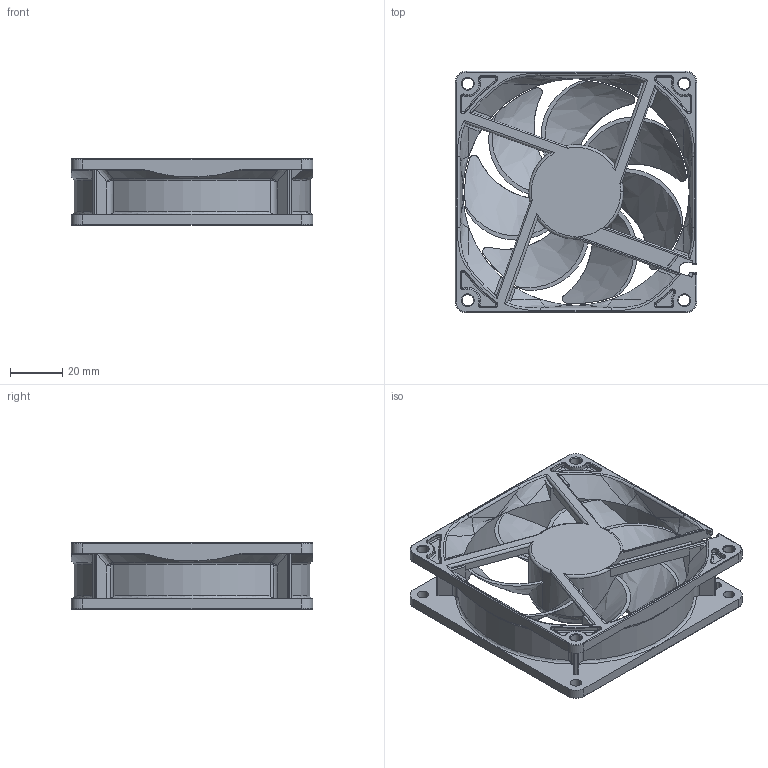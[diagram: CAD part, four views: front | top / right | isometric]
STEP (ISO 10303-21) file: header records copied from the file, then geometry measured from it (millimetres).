
FILE_DESCRIPTION (( 'STEP AP203' ), '1' );
FILE_NAME ('92x25LG RIBRESS.STEP', '2017-06-19T06:04:59', ( '' ), ( '' ), 'SwSTEP 2.0', 'SolidWorks 2017', '' );
FILE_SCHEMA (( 'CONFIG_CONTROL_DESIGN' ));
Length unit declared in the file: millimetre
Products named in the file (2): 92x25LG RIBRESS
Bounding box: 92 x 92 x 25.2 mm (x, y, z)
Volume: 56047.4 mm3; surface area: 41511.1 mm2
Topology: 1 solids, 1 shells, 613 faces, 1577 edges, 952 vertices
Faces by surface type: cylinder 203, torus 184, plane 109, bspline 83, cone 32, sphere 2
Entity records: 23307 total; most frequent: CARTESIAN_POINT 8745, ORIENTED_EDGE 3118, DIRECTION 3047, EDGE_CURVE 1559, AXIS2_PLACEMENT_3D 1300, VERTEX_POINT 952, CIRCLE 768, EDGE_LOOP 641
